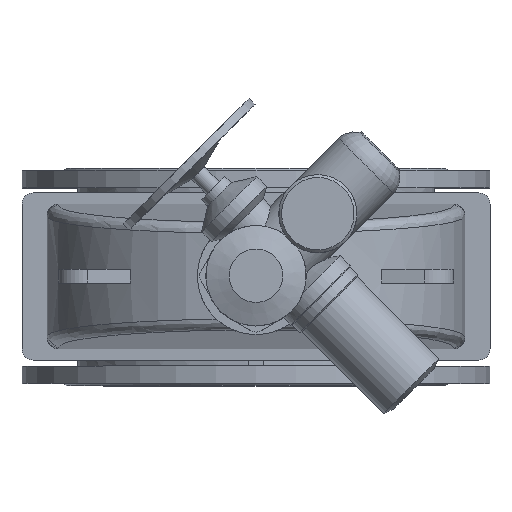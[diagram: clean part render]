
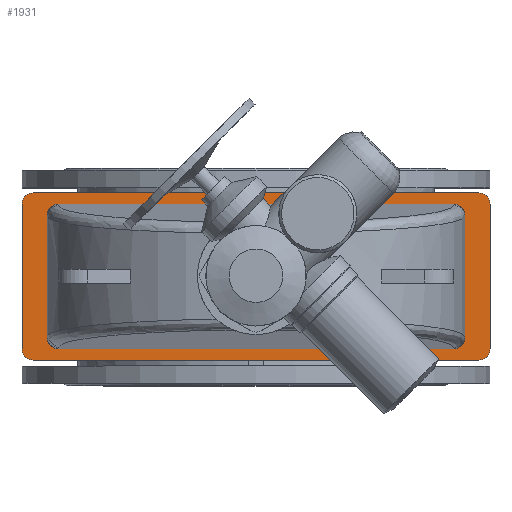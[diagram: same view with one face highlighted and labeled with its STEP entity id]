
A CAD part, top view. The second image highlights one B-rep face of the part: STEP entity #1931.
In plain terms, the highlighted planar face has unit normal (0, 0, 1).
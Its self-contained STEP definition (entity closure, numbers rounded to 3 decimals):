
#1931=ADVANCED_FACE('',(#6577,#6579),#6581,.T.);
#6577=FACE_BOUND('',#6578,.T.);
#6578=EDGE_LOOP('',(#9404,#9405,#9406,#9407,#9408,#9409,#9410,#9411));
#6579=FACE_BOUND('',#6580,.T.);
#6580=EDGE_LOOP('',(#9412,#9413,#9414,#9415,#9416,#9417,#9418,#9419));
#6581=PLANE('',#6582);
#6582=AXIS2_PLACEMENT_3D('',#6583,#6584,#6585);
#6583=CARTESIAN_POINT('',(0.,0.,676.));
#6584=DIRECTION('',(0.,-0.,1.));
#6585=DIRECTION('',(0.,1.,0.));
#9404=ORIENTED_EDGE('',*,*,#10512,.F.);
#9405=ORIENTED_EDGE('',*,*,#10525,.T.);
#9406=ORIENTED_EDGE('',*,*,#10524,.F.);
#9407=ORIENTED_EDGE('',*,*,#10522,.T.);
#9408=ORIENTED_EDGE('',*,*,#10520,.F.);
#9409=ORIENTED_EDGE('',*,*,#10518,.T.);
#9410=ORIENTED_EDGE('',*,*,#10516,.F.);
#9411=ORIENTED_EDGE('',*,*,#10513,.T.);
#9412=ORIENTED_EDGE('',*,*,#10526,.F.);
#9413=ORIENTED_EDGE('',*,*,#10527,.F.);
#9414=ORIENTED_EDGE('',*,*,#10528,.F.);
#9415=ORIENTED_EDGE('',*,*,#10529,.F.);
#9416=ORIENTED_EDGE('',*,*,#10530,.F.);
#9417=ORIENTED_EDGE('',*,*,#10531,.F.);
#9418=ORIENTED_EDGE('',*,*,#10532,.F.);
#9419=ORIENTED_EDGE('',*,*,#10533,.F.);
#10512=EDGE_CURVE('',#11657,#11655,#11659,.F.);
#10513=EDGE_CURVE('',#11660,#11655,#11661,.T.);
#10516=EDGE_CURVE('',#11660,#11663,#11665,.F.);
#10518=EDGE_CURVE('',#11666,#11663,#11668,.T.);
#10520=EDGE_CURVE('',#11666,#11669,#11671,.F.);
#10522=EDGE_CURVE('',#11672,#11669,#11674,.T.);
#10524=EDGE_CURVE('',#11672,#11675,#11677,.F.);
#10525=EDGE_CURVE('',#11657,#11675,#11678,.T.);
#10526=EDGE_CURVE('',#11679,#11680,#11681,.F.);
#10527=EDGE_CURVE('',#11682,#11679,#11683,.T.);
#10528=EDGE_CURVE('',#11684,#11682,#11685,.T.);
#10529=EDGE_CURVE('',#11686,#11684,#11687,.T.);
#10530=EDGE_CURVE('',#11688,#11686,#11689,.F.);
#10531=EDGE_CURVE('',#11690,#11688,#11691,.T.);
#10532=EDGE_CURVE('',#11692,#11690,#11693,.T.);
#10533=EDGE_CURVE('',#11680,#11692,#11694,.T.);
#11655=VERTEX_POINT('',#14491);
#11657=VERTEX_POINT('',#14495);
#11659=CIRCLE('',#14499,20.);
#11660=VERTEX_POINT('',#14503);
#11661=LINE('',#14504,#14505);
#11663=VERTEX_POINT('',#14510);
#11665=CIRCLE('',#14514,20.);
#11666=VERTEX_POINT('',#14518);
#11668=LINE('',#14522,#14523);
#11669=VERTEX_POINT('',#14525);
#11671=CIRCLE('',#14529,20.);
#11672=VERTEX_POINT('',#14533);
#11674=LINE('',#14537,#14538);
#11675=VERTEX_POINT('',#14540);
#11677=CIRCLE('',#14544,20.);
#11678=LINE('',#14548,#14549);
#11679=VERTEX_POINT('',#14551);
#11680=VERTEX_POINT('',#14552);
#11681=(BOUNDED_CURVE()B_SPLINE_CURVE(3,
(#14553,#14554,#14555,#14556),
.UNSPECIFIED.,.F.,.F.)B_SPLINE_CURVE_WITH_KNOTS((4,4),
(0.,1.),
.UNSPECIFIED.)CURVE()GEOMETRIC_REPRESENTATION_ITEM()RATIONAL_B_SPLINE_CURVE((1.,
0.805,0.805,1.))REPRESENTATION_ITEM(''));
#11682=VERTEX_POINT('',#14557);
#11683=LINE('',#14558,#14559);
#11684=VERTEX_POINT('',#14561);
#11685=(BOUNDED_CURVE()B_SPLINE_CURVE(3,
(#14562,#14563,#14564,#14565),
.UNSPECIFIED.,.F.,.F.)B_SPLINE_CURVE_WITH_KNOTS((4,4),
(0.,1.),
.UNSPECIFIED.)CURVE()GEOMETRIC_REPRESENTATION_ITEM()RATIONAL_B_SPLINE_CURVE((1.,
0.805,0.805,1.))REPRESENTATION_ITEM(''));
#11686=VERTEX_POINT('',#14566);
#11687=LINE('',#14567,#14568);
#11688=VERTEX_POINT('',#14570);
#11689=(BOUNDED_CURVE()B_SPLINE_CURVE(3,
(#14571,#14572,#14573,#14574),
.UNSPECIFIED.,.F.,.F.)B_SPLINE_CURVE_WITH_KNOTS((4,4),
(0.,1.),
.UNSPECIFIED.)CURVE()GEOMETRIC_REPRESENTATION_ITEM()RATIONAL_B_SPLINE_CURVE((1.,
0.805,0.805,1.))REPRESENTATION_ITEM(''));
#11690=VERTEX_POINT('',#14575);
#11691=LINE('',#14576,#14577);
#11692=VERTEX_POINT('',#14579);
#11693=(BOUNDED_CURVE()B_SPLINE_CURVE(3,
(#14580,#14581,#14582,#14583),
.UNSPECIFIED.,.F.,.F.)B_SPLINE_CURVE_WITH_KNOTS((4,4),
(0.,1.),
.UNSPECIFIED.)CURVE()GEOMETRIC_REPRESENTATION_ITEM()RATIONAL_B_SPLINE_CURVE((1.,
0.805,0.805,1.))REPRESENTATION_ITEM(''));
#11694=LINE('',#14584,#14585);
#14491=CARTESIAN_POINT('',(-420.,-130.,676.));
#14495=CARTESIAN_POINT('',(-400.,-150.,676.));
#14499=AXIS2_PLACEMENT_3D('',#14500,#14501,#14502);
#14500=CARTESIAN_POINT('',(-400.,-130.,676.));
#14501=DIRECTION('',(0.,-0.,1.));
#14502=DIRECTION('',(-1.,0.,0.));
#14503=CARTESIAN_POINT('',(-420.,130.,676.));
#14504=CARTESIAN_POINT('',(-420.,130.,676.));
#14505=VECTOR('',#14506,1.);
#14506=DIRECTION('',(0.,-1.,0.));
#14510=CARTESIAN_POINT('',(-400.,150.,676.));
#14514=AXIS2_PLACEMENT_3D('',#14515,#14516,#14517);
#14515=CARTESIAN_POINT('',(-400.,130.,676.));
#14516=DIRECTION('',(0.,-0.,1.));
#14517=DIRECTION('',(0.,1.,0.));
#14518=CARTESIAN_POINT('',(400.,150.,676.));
#14522=CARTESIAN_POINT('',(400.,150.,676.));
#14523=VECTOR('',#14524,1.);
#14524=DIRECTION('',(-1.,0.,0.));
#14525=CARTESIAN_POINT('',(420.,130.,676.));
#14529=AXIS2_PLACEMENT_3D('',#14530,#14531,#14532);
#14530=CARTESIAN_POINT('',(400.,130.,676.));
#14531=DIRECTION('',(0.,-0.,1.));
#14532=DIRECTION('',(1.,0.,0.));
#14533=CARTESIAN_POINT('',(420.,-130.,676.));
#14537=CARTESIAN_POINT('',(420.,-130.,676.));
#14538=VECTOR('',#14539,1.);
#14539=DIRECTION('',(0.,1.,0.));
#14540=CARTESIAN_POINT('',(400.,-150.,676.));
#14544=AXIS2_PLACEMENT_3D('',#14545,#14546,#14547);
#14545=CARTESIAN_POINT('',(400.,-130.,676.));
#14546=DIRECTION('',(0.,-0.,1.));
#14547=DIRECTION('',(0.,-1.,0.));
#14548=CARTESIAN_POINT('',(-400.,-150.,676.));
#14549=VECTOR('',#14550,1.);
#14550=DIRECTION('',(1.,0.,0.));
#14551=CARTESIAN_POINT('',(355.,-130.,676.));
#14552=CARTESIAN_POINT('',(375.,-109.924,676.));
#14553=CARTESIAN_POINT('',(375.,-109.924,676.));
#14554=CARTESIAN_POINT('',(375.,-121.684,676.));
#14555=CARTESIAN_POINT('',(366.716,-130.,676.));
#14556=CARTESIAN_POINT('',(355.,-130.,676.));
#14557=CARTESIAN_POINT('',(-355.,-130.,676.));
#14558=CARTESIAN_POINT('',(-355.,-130.,676.));
#14559=VECTOR('',#14560,1.);
#14560=DIRECTION('',(1.,0.,0.));
#14561=CARTESIAN_POINT('',(-375.,-109.924,676.));
#14562=CARTESIAN_POINT('',(-375.,-109.924,676.));
#14563=CARTESIAN_POINT('',(-375.,-121.684,676.));
#14564=CARTESIAN_POINT('',(-366.716,-130.,676.));
#14565=CARTESIAN_POINT('',(-355.,-130.,676.));
#14566=CARTESIAN_POINT('',(-375.,109.924,676.));
#14567=CARTESIAN_POINT('',(-375.,109.924,676.));
#14568=VECTOR('',#14569,1.);
#14569=DIRECTION('',(0.,-1.,0.));
#14570=CARTESIAN_POINT('',(-355.,130.,676.));
#14571=CARTESIAN_POINT('',(-375.,109.924,676.));
#14572=CARTESIAN_POINT('',(-375.,121.684,676.));
#14573=CARTESIAN_POINT('',(-366.716,130.,676.));
#14574=CARTESIAN_POINT('',(-355.,130.,676.));
#14575=CARTESIAN_POINT('',(355.,130.,676.));
#14576=CARTESIAN_POINT('',(355.,130.,676.));
#14577=VECTOR('',#14578,1.);
#14578=DIRECTION('',(-1.,0.,0.));
#14579=CARTESIAN_POINT('',(375.,109.924,676.));
#14580=CARTESIAN_POINT('',(375.,109.924,676.));
#14581=CARTESIAN_POINT('',(375.,121.684,676.));
#14582=CARTESIAN_POINT('',(366.716,130.,676.));
#14583=CARTESIAN_POINT('',(355.,130.,676.));
#14584=CARTESIAN_POINT('',(375.,-109.924,676.));
#14585=VECTOR('',#14586,1.);
#14586=DIRECTION('',(0.,1.,0.));
